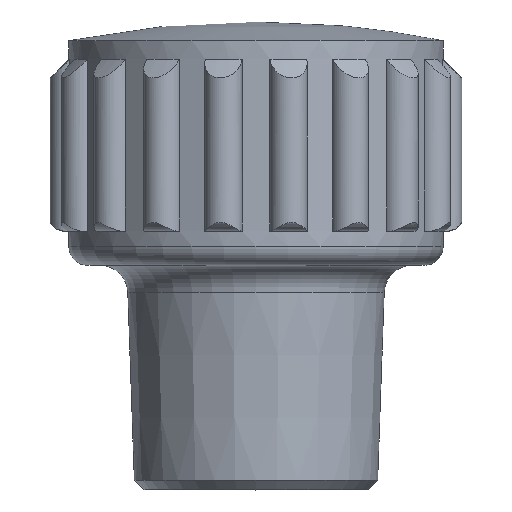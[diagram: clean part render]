
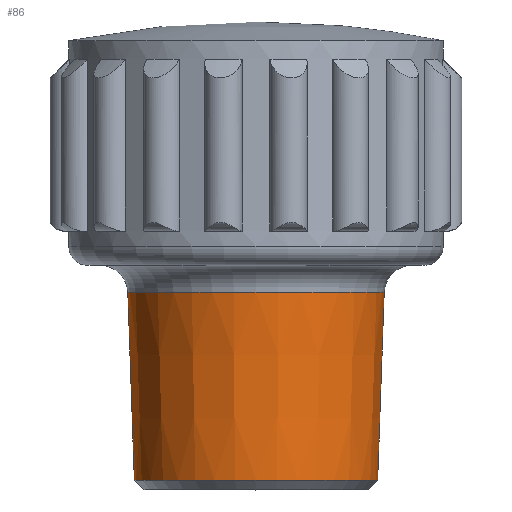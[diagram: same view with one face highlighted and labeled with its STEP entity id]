
A CAD part, top view. The second image highlights one B-rep face of the part: STEP entity #86.
In plain terms, the highlighted conical face has half-angle 2 degrees and reference radius 6.851 mm.
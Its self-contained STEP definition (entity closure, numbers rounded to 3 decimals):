
#86 = ADVANCED_FACE( '', ( #186, #187 ), #188, .T. );
#186 = FACE_BOUND( '', #345, .T. );
#187 = FACE_OUTER_BOUND( '', #346, .T. );
#188 = CONICAL_SURFACE( '', #347, 6.851, 0.035 );
#345 = EDGE_LOOP( '', ( #588 ) );
#346 = EDGE_LOOP( '', ( #589 ) );
#347 = AXIS2_PLACEMENT_3D( '', #590, #591, #592 );
#588 = ORIENTED_EDGE( '', *, *, #977, .F. );
#589 = ORIENTED_EDGE( '', *, *, #978, .T. );
#590 = CARTESIAN_POINT( '', ( 0., 10.552, 0. ) );
#591 = DIRECTION( '', ( 0., 1., 0. ) );
#592 = DIRECTION( '', ( -1., 0., 0. ) );
#977 = EDGE_CURVE( '', #1174, #1174, #1175, .T. );
#978 = EDGE_CURVE( '', #1176, #1176, #1177, .T. );
#1174 = VERTEX_POINT( '', #1520 );
#1175 = CIRCLE( '', #1521, 6.5 );
#1176 = VERTEX_POINT( '', #1522 );
#1177 = CIRCLE( '', #1523, 6.851 );
#1520 = CARTESIAN_POINT( '', ( 6.5, 0.499, 0. ) );
#1521 = AXIS2_PLACEMENT_3D( '', #2258, #2259, #2260 );
#1522 = CARTESIAN_POINT( '', ( 6.851, 10.552, 0. ) );
#1523 = AXIS2_PLACEMENT_3D( '', #2261, #2262, #2263 );
#2258 = CARTESIAN_POINT( '', ( 0., 0.499, 0. ) );
#2259 = DIRECTION( '', ( 0., -1., 0. ) );
#2260 = DIRECTION( '', ( 1., 0., 0. ) );
#2261 = CARTESIAN_POINT( '', ( 0., 10.552, 0. ) );
#2262 = DIRECTION( '', ( 0., -1., 0. ) );
#2263 = DIRECTION( '', ( 1., 0., 0. ) );
